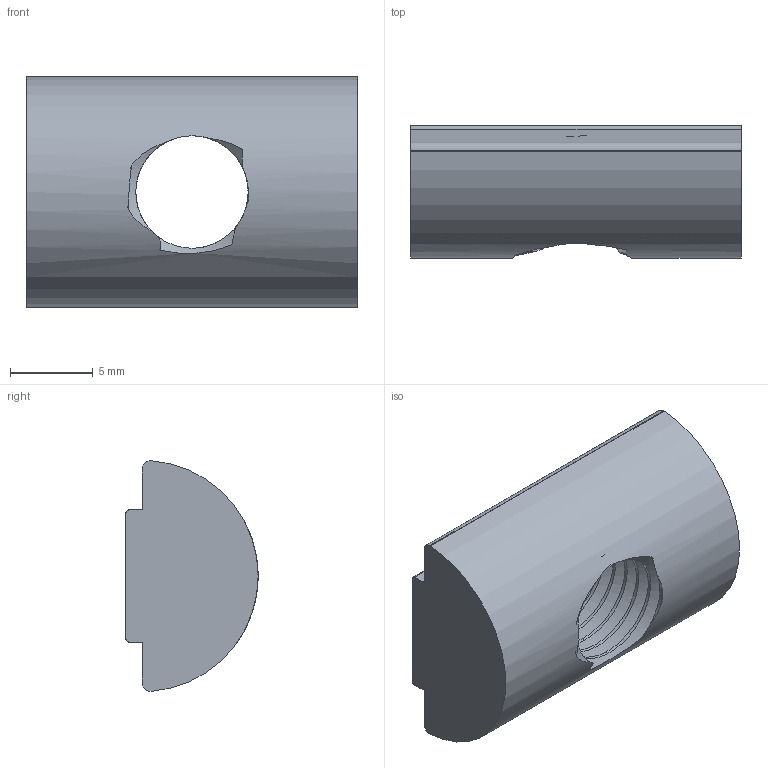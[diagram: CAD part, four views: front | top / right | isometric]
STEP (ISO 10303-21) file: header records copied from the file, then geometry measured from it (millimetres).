
FILE_DESCRIPTION (( 'STEP AP203' ), '1' );
FILE_NAME ('137-CE-HSN-40.STEP', '2015-07-09T09:00:54', ( '' ), ( '' ), 'SwSTEP 2.0', 'SolidWorks 2013', '' );
FILE_SCHEMA (( 'CONFIG_CONTROL_DESIGN' ));
Length unit declared in the file: millimetre
Products named in the file (1): 137-CE-HSN-40
Bounding box: 20 x 8 x 13.96 mm (x, y, z)
Volume: 1373.1 mm3; surface area: 1115.9 mm2
Topology: 1 solids, 1 shells, 36 faces, 111 edges, 74 vertices
Faces by surface type: cylinder 23, plane 7, bspline 6
Entity records: 3762 total; most frequent: CARTESIAN_POINT 2852, ORIENTED_EDGE 222, DIRECTION 125, EDGE_CURVE 111, VERTEX_POINT 74, AXIS2_PLACEMENT_3D 44, EDGE_LOOP 39, VECTOR 37
